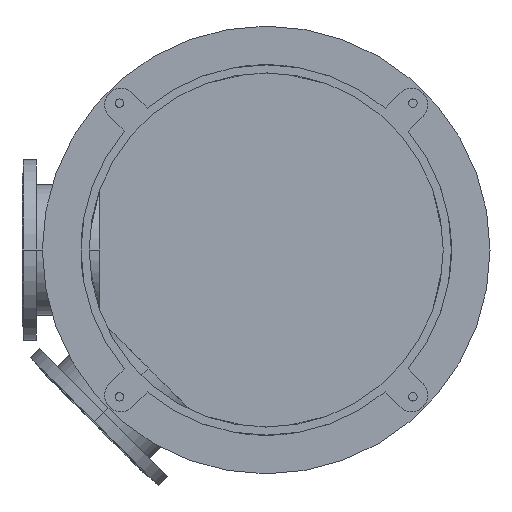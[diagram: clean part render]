
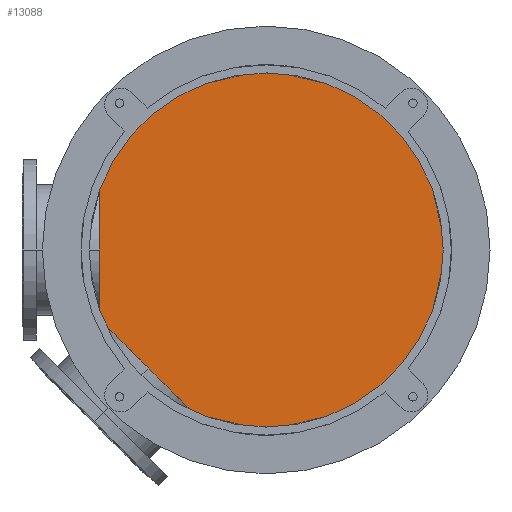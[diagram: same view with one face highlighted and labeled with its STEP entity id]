
A CAD part, front view. The second image highlights one B-rep face of the part: STEP entity #13088.
In plain terms, the highlighted planar face has unit normal (0, -1, 0).
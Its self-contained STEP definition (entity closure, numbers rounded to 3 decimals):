
#3525=CARTESIAN_POINT('',(0.,1000.,0.));
#3526=DIRECTION('',(0.,-1.,0.));
#3527=DIRECTION('',(0.,0.,-1.));
#3528=AXIS2_PLACEMENT_3D('',#3525,#3526,#3527);
#3622=CARTESIAN_POINT('',(0.,1000.,0.));
#3623=DIRECTION('',(0.,-1.,0.));
#3624=DIRECTION('',(0.,0.,1.));
#3625=AXIS2_PLACEMENT_3D('',#3622,#3623,#3624);
#7263=CARTESIAN_POINT('',(0.,1000.,450.));
#7264=CARTESIAN_POINT('',(0.,1000.,-450.));
#7265=VERTEX_POINT('',#7263);
#7266=VERTEX_POINT('',#7264);
#13079=CARTESIAN_POINT('',(0.,1000.,0.));
#13080=DIRECTION('',(0.,1.,0.));
#13081=DIRECTION('',(0.,0.,-1.));
#13082=AXIS2_PLACEMENT_3D('',#13079,#13080,#13081);
#13083=PLANE('',#13082);
#13084=ORIENTED_EDGE('',*,*,#13059,.F.);
#13085=ORIENTED_EDGE('',*,*,#12970,.F.);
#13086=EDGE_LOOP('',(#13084,#13085));
#13087=FACE_OUTER_BOUND('',#13086,.F.);
#13088=ADVANCED_FACE('',(#13087),#13083,.F.);
#3529=CIRCLE('',#3528,450.);
#3626=CIRCLE('',#3625,450.);
#12970=EDGE_CURVE('',#7266,#7265,#3529,.T.);
#13059=EDGE_CURVE('',#7265,#7266,#3626,.T.);
